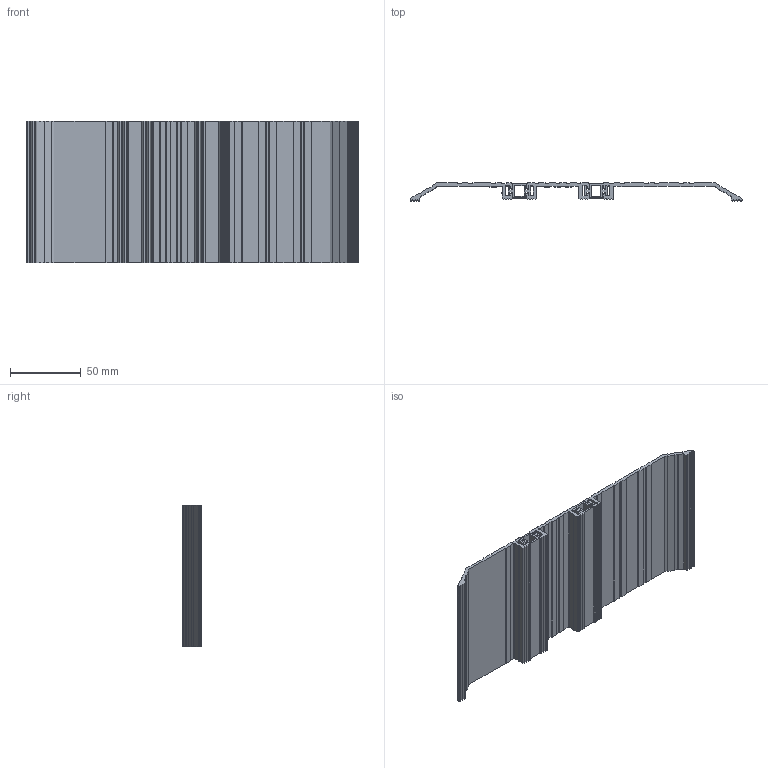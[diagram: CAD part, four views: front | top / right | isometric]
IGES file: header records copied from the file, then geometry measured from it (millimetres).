
Global section: file name: No Iges File Name specified; native system: Autodesk Inventor 2012; preprocessor: AutoDesk Inventor Iges Exporter R2012; author: anna.b; date: 20130718.151342; units: millimetre
Bounding box: 235.23 x 12.79 x 100 mm (x, y, z)
Volume: 79773.5 mm3; surface area: 82435.9 mm2
Topology: 5 solids, 5 shells, 360 faces, 1050 edges, 700 vertices
Faces by surface type: plane 300, cylinder 34, revolution 26
